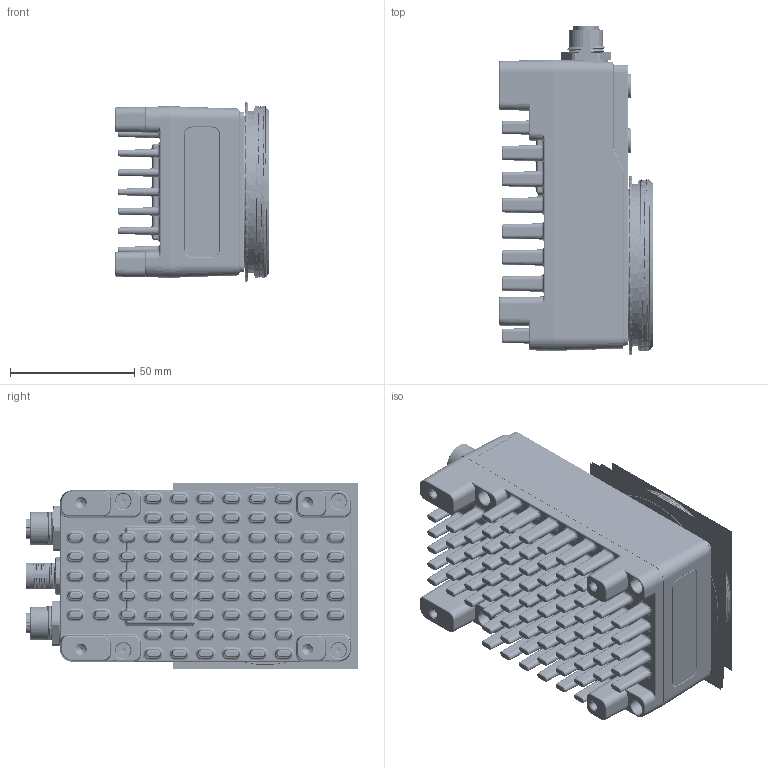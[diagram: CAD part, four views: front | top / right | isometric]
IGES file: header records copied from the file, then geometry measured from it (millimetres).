
Start section:  PTC IGES file: 69x117x61.7-X86-01-3DK-3D-V1.0.igs
Global section: file name: 69x117x61.7-X86-01-3DK-3D-V1.0.igs; native system: Creo Parametric by PTC Inc.; preprocessor: 2020184; author: 309191; organization: Unknown; date: 20231128.102245; units: millimetre
Bounding box: 61.9 x 133.43 x 74.46 mm (x, y, z)
Surface area: 472572 mm2 (no closed solid volume)
Topology: 0 solids, 0 shells, 3402 faces, 20651 edges, 21640 vertices
Faces by surface type: revolution 2139, bspline 1263
